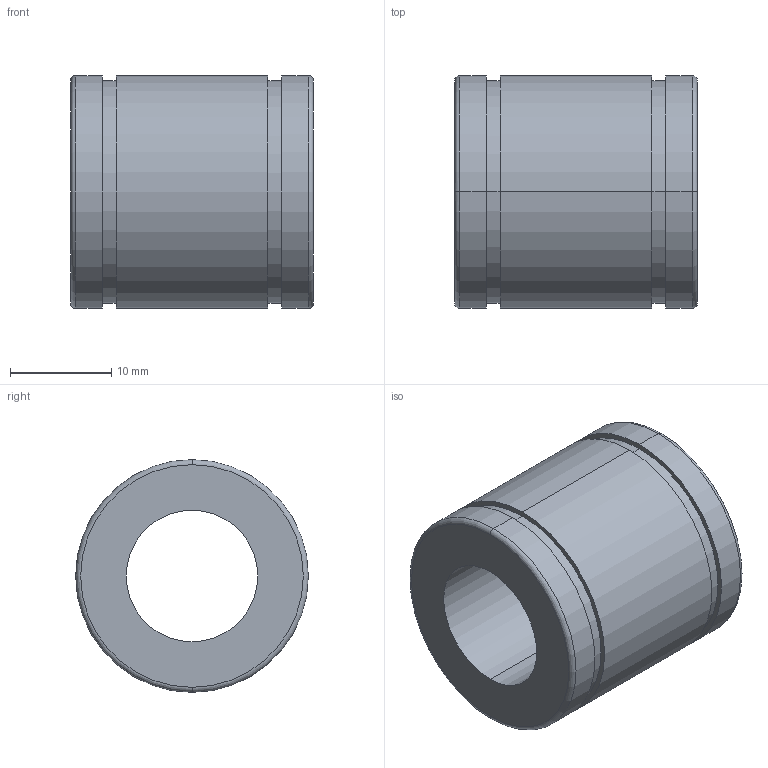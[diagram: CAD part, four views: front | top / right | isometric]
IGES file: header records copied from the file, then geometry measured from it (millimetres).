
Start section: 3D InterOp IGES (Version 21 0 1), Spatial Corp. Copyright (c) 1999-2007.
Global section: file name: N-13VS.igs; native system: Spatial Corp.; preprocessor: 3D InterOp GENERIC/IGES 3.0; author: Noname; organization: Noname; date: 20220311.154813; units: millimetre
Bounding box: 24 x 23 x 23 mm (x, y, z)
Surface area: 3381.5 mm2 (no closed solid volume)
Topology: 0 solids, 0 shells, 22 faces, 88 edges, 88 vertices
Faces by surface type: revolution 16, extrusion 6
